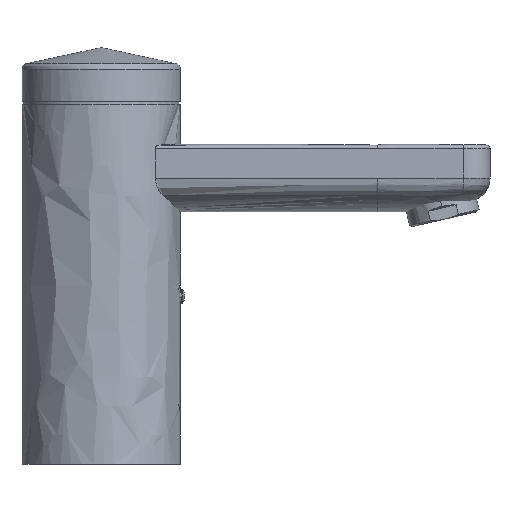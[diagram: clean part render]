
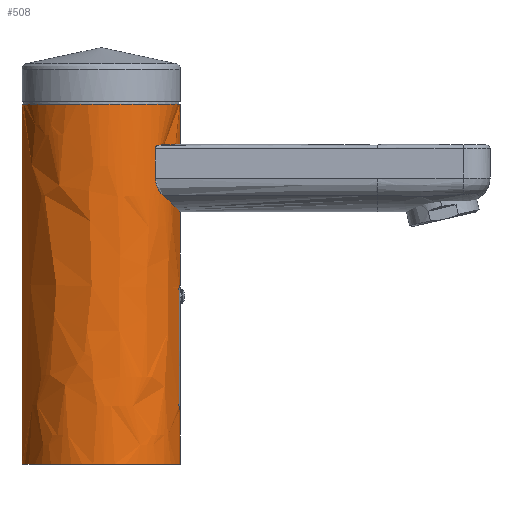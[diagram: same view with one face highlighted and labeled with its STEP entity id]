
A CAD part, left-side view. The second image highlights one B-rep face of the part: STEP entity #508.
In plain terms, the highlighted free-form (B-spline) face has degree [2, 1] with [9, 2] control points.
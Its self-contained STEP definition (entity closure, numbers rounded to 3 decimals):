
#508=ADVANCED_FACE('',(#918),#6611,.T.);
#918=FACE_OUTER_BOUND('',#1342,.T.);
#1342=EDGE_LOOP('',(#3360,#3361,#3362,#3363,#3364,#3365,#3366,#3367,#3368,
#3369));
#3360=ORIENTED_EDGE('',*,*,#4454,.F.);
#3361=ORIENTED_EDGE('',*,*,#4463,.T.);
#3362=ORIENTED_EDGE('',*,*,#4462,.F.);
#3363=ORIENTED_EDGE('',*,*,#4464,.T.);
#3364=ORIENTED_EDGE('',*,*,#4460,.F.);
#3365=ORIENTED_EDGE('',*,*,#4465,.T.);
#3366=ORIENTED_EDGE('',*,*,#4466,.T.);
#3367=ORIENTED_EDGE('',*,*,#4467,.T.);
#3368=ORIENTED_EDGE('',*,*,#4468,.T.);
#3369=ORIENTED_EDGE('',*,*,#4469,.T.);
#4454=EDGE_CURVE('',#6186,#6187,#5524,.T.);
#4460=EDGE_CURVE('',#6192,#6193,#5528,.T.);
#4462=EDGE_CURVE('',#6194,#6185,#5529,.T.);
#4463=EDGE_CURVE('',#6186,#6185,#4906,.T.);
#4464=EDGE_CURVE('',#6194,#6193,#4907,.T.);
#4465=EDGE_CURVE('',#6192,#6195,#4908,.T.);
#4466=EDGE_CURVE('',#6195,#6196,#5530,.T.);
#4467=EDGE_CURVE('',#6196,#6197,#5531,.T.);
#4468=EDGE_CURVE('',#6197,#6198,#5532,.T.);
#4469=EDGE_CURVE('',#6198,#6187,#4909,.T.);
#4906=(
BOUNDED_CURVE()
B_SPLINE_CURVE(2,(#20880,#20881,#20882,#20883,#20884),.UNSPECIFIED.,.F.,
 .F.)
B_SPLINE_CURVE_WITH_KNOTS((3,2,3),(0.,41.626,83.252),
 .UNSPECIFIED.)
CURVE()
GEOMETRIC_REPRESENTATION_ITEM()
RATIONAL_B_SPLINE_CURVE((1.,0.707,1.,0.707,1.))
REPRESENTATION_ITEM('')
);
#4907=(
BOUNDED_CURVE()
B_SPLINE_CURVE(2,(#20885,#20886,#20887,#20888,#20889),.UNSPECIFIED.,.F.,
 .F.)
B_SPLINE_CURVE_WITH_KNOTS((3,2,3),(-83.252,-41.626,
0.),.UNSPECIFIED.)
CURVE()
GEOMETRIC_REPRESENTATION_ITEM()
RATIONAL_B_SPLINE_CURVE((1.,0.707,1.,0.707,1.))
REPRESENTATION_ITEM('')
);
#4908=(
BOUNDED_CURVE()
B_SPLINE_CURVE(2,(#20890,#20891,#20892),.UNSPECIFIED.,.F.,.F.)
B_SPLINE_CURVE_WITH_KNOTS((3,3),(0.,3.864),.UNSPECIFIED.)
CURVE()
GEOMETRIC_REPRESENTATION_ITEM()
RATIONAL_B_SPLINE_CURVE((1.,0.997,1.))
REPRESENTATION_ITEM('')
);
#4909=(
BOUNDED_CURVE()
B_SPLINE_CURVE(2,(#20915,#20916,#20917),.UNSPECIFIED.,.F.,.F.)
B_SPLINE_CURVE_WITH_KNOTS((3,3),(0.,3.864),.UNSPECIFIED.)
CURVE()
GEOMETRIC_REPRESENTATION_ITEM()
RATIONAL_B_SPLINE_CURVE((1.,0.997,1.))
REPRESENTATION_ITEM('')
);
#5524=B_SPLINE_CURVE_WITH_KNOTS('',1,(#20841,#20842),.UNSPECIFIED.,.F.,
 .F.,(2,2),(0.,60.5),.UNSPECIFIED.);
#5528=B_SPLINE_CURVE_WITH_KNOTS('',1,(#20871,#20872),.UNSPECIFIED.,.F.,
 .F.,(2,2),(0.,18.3),.UNSPECIFIED.);
#5529=B_SPLINE_CURVE_WITH_KNOTS('',1,(#20878,#20879),.UNSPECIFIED.,.F.,
 .F.,(2,2),(-120.5,0.),.UNSPECIFIED.);
#5530=B_SPLINE_CURVE_WITH_KNOTS('',3,(#20893,#20894,#20895,#20896,#20897,
#20898,#20899,#20900,#20901,#20902),.UNSPECIFIED.,.F.,.F.,(4,2,2,2,4),(0.,
0.,0.001,0.001,0.002),
 .UNSPECIFIED.);
#5531=B_SPLINE_CURVE_WITH_KNOTS('',1,(#20903,#20904),.UNSPECIFIED.,.F.,
 .F.,(2,2),(0.,39.2),.UNSPECIFIED.);
#5532=B_SPLINE_CURVE_WITH_KNOTS('',3,(#20905,#20906,#20907,#20908,#20909,
#20910,#20911,#20912,#20913,#20914),.UNSPECIFIED.,.F.,.F.,(4,2,2,2,4),(0.,
0.,0.001,0.001,0.002),
 .UNSPECIFIED.);
#6185=VERTEX_POINT('',#20715);
#6186=VERTEX_POINT('',#20716);
#6187=VERTEX_POINT('',#20717);
#6192=VERTEX_POINT('',#20722);
#6193=VERTEX_POINT('',#20723);
#6194=VERTEX_POINT('',#20724);
#6195=VERTEX_POINT('',#20725);
#6196=VERTEX_POINT('',#20726);
#6197=VERTEX_POINT('',#20727);
#6198=VERTEX_POINT('',#20728);
#6611=(
BOUNDED_SURFACE()
B_SPLINE_SURFACE(2,1,((#20570,#20571),(#20572,#20573),(#20574,#20575),(#20576,
#20577),(#20578,#20579),(#20580,#20581),(#20582,#20583),(#20584,#20585),
(#20586,#20587)),.UNSPECIFIED.,.T.,.F.,.F.)
B_SPLINE_SURFACE_WITH_KNOTS((3,2,2,2,3),(2,2),(0.,41.626,83.252,
124.878,166.504),(0.,144.602),.UNSPECIFIED.)
GEOMETRIC_REPRESENTATION_ITEM()
RATIONAL_B_SPLINE_SURFACE(((1.,1.),(0.707,0.707),
(1.,1.),(0.707,0.707),(1.,1.),(0.707,
0.707),(1.,1.),(0.707,0.707),(1.,1.)))
REPRESENTATION_ITEM('')
SURFACE()
);
#20570=CARTESIAN_POINT('',(26.5,0.,132.551));
#20571=CARTESIAN_POINT('',(26.5,0.,-12.051));
#20572=CARTESIAN_POINT('',(26.5,-26.5,132.551));
#20573=CARTESIAN_POINT('',(26.5,-26.5,-12.051));
#20574=CARTESIAN_POINT('',(0.,-26.5,132.551));
#20575=CARTESIAN_POINT('',(0.,-26.5,-12.051));
#20576=CARTESIAN_POINT('',(-26.5,-26.5,132.551));
#20577=CARTESIAN_POINT('',(-26.5,-26.5,-12.051));
#20578=CARTESIAN_POINT('',(-26.5,0.,132.551));
#20579=CARTESIAN_POINT('',(-26.5,0.,-12.051));
#20580=CARTESIAN_POINT('',(-26.5,26.5,132.551));
#20581=CARTESIAN_POINT('',(-26.5,26.5,-12.051));
#20582=CARTESIAN_POINT('',(0.,26.5,132.551));
#20583=CARTESIAN_POINT('',(0.,26.5,-12.051));
#20584=CARTESIAN_POINT('',(26.5,26.5,132.551));
#20585=CARTESIAN_POINT('',(26.5,26.5,-12.051));
#20586=CARTESIAN_POINT('',(26.5,0.,132.551));
#20587=CARTESIAN_POINT('',(26.5,0.,-12.051));
#20715=CARTESIAN_POINT('',(0.,26.5,120.5));
#20716=CARTESIAN_POINT('',(0.,-26.5,120.5));
#20717=CARTESIAN_POINT('',(0.,-26.5,60.));
#20722=CARTESIAN_POINT('',(0.,-26.5,18.3));
#20723=CARTESIAN_POINT('',(0.,-26.5,0.));
#20724=CARTESIAN_POINT('',(0.,26.5,0.));
#20725=CARTESIAN_POINT('',(-3.85,-26.219,18.3));
#20726=CARTESIAN_POINT('',(-5.1,-26.005,19.55));
#20727=CARTESIAN_POINT('',(-5.1,-26.005,58.75));
#20728=CARTESIAN_POINT('',(-3.85,-26.219,60.));
#20841=CARTESIAN_POINT('',(0.,-26.5,120.5));
#20842=CARTESIAN_POINT('',(0.,-26.5,60.));
#20871=CARTESIAN_POINT('',(0.,-26.5,18.3));
#20872=CARTESIAN_POINT('',(0.,-26.5,0.));
#20878=CARTESIAN_POINT('',(0.,26.5,0.));
#20879=CARTESIAN_POINT('',(0.,26.5,120.5));
#20880=CARTESIAN_POINT('',(0.,-26.5,120.5));
#20881=CARTESIAN_POINT('',(-26.5,-26.5,120.5));
#20882=CARTESIAN_POINT('',(-26.5,0.,120.5));
#20883=CARTESIAN_POINT('',(-26.5,26.5,120.5));
#20884=CARTESIAN_POINT('',(0.,26.5,120.5));
#20885=CARTESIAN_POINT('',(0.,26.5,0.));
#20886=CARTESIAN_POINT('',(-26.5,26.5,0.));
#20887=CARTESIAN_POINT('',(-26.5,0.,0.));
#20888=CARTESIAN_POINT('',(-26.5,-26.5,0.));
#20889=CARTESIAN_POINT('',(0.,-26.5,0.));
#20890=CARTESIAN_POINT('',(0.,-26.5,18.3));
#20891=CARTESIAN_POINT('',(-1.935,-26.5,18.3));
#20892=CARTESIAN_POINT('',(-3.85,-26.219,18.3));
#20893=CARTESIAN_POINT('',(-3.85,-26.219,18.3));
#20894=CARTESIAN_POINT('',(-4.014,-26.195,18.3));
#20895=CARTESIAN_POINT('',(-4.175,-26.17,18.332));
#20896=CARTESIAN_POINT('',(-4.477,-26.119,18.457));
#20897=CARTESIAN_POINT('',(-4.615,-26.095,18.548));
#20898=CARTESIAN_POINT('',(-4.847,-26.053,18.778));
#20899=CARTESIAN_POINT('',(-4.941,-26.035,18.918));
#20900=CARTESIAN_POINT('',(-5.067,-26.011,19.22));
#20901=CARTESIAN_POINT('',(-5.1,-26.005,19.385));
#20902=CARTESIAN_POINT('',(-5.1,-26.005,19.55));
#20903=CARTESIAN_POINT('',(-5.1,-26.005,19.55));
#20904=CARTESIAN_POINT('',(-5.1,-26.005,58.75));
#20905=CARTESIAN_POINT('',(-5.1,-26.005,58.75));
#20906=CARTESIAN_POINT('',(-5.1,-26.005,58.916));
#20907=CARTESIAN_POINT('',(-5.067,-26.011,59.079));
#20908=CARTESIAN_POINT('',(-4.941,-26.035,59.383));
#20909=CARTESIAN_POINT('',(-4.847,-26.053,59.521));
#20910=CARTESIAN_POINT('',(-4.616,-26.095,59.751));
#20911=CARTESIAN_POINT('',(-4.476,-26.12,59.844));
#20912=CARTESIAN_POINT('',(-4.176,-26.169,59.968));
#20913=CARTESIAN_POINT('',(-4.013,-26.195,60.));
#20914=CARTESIAN_POINT('',(-3.85,-26.219,60.));
#20915=CARTESIAN_POINT('',(-3.85,-26.219,60.));
#20916=CARTESIAN_POINT('',(-1.935,-26.5,60.));
#20917=CARTESIAN_POINT('',(0.,-26.5,60.));
